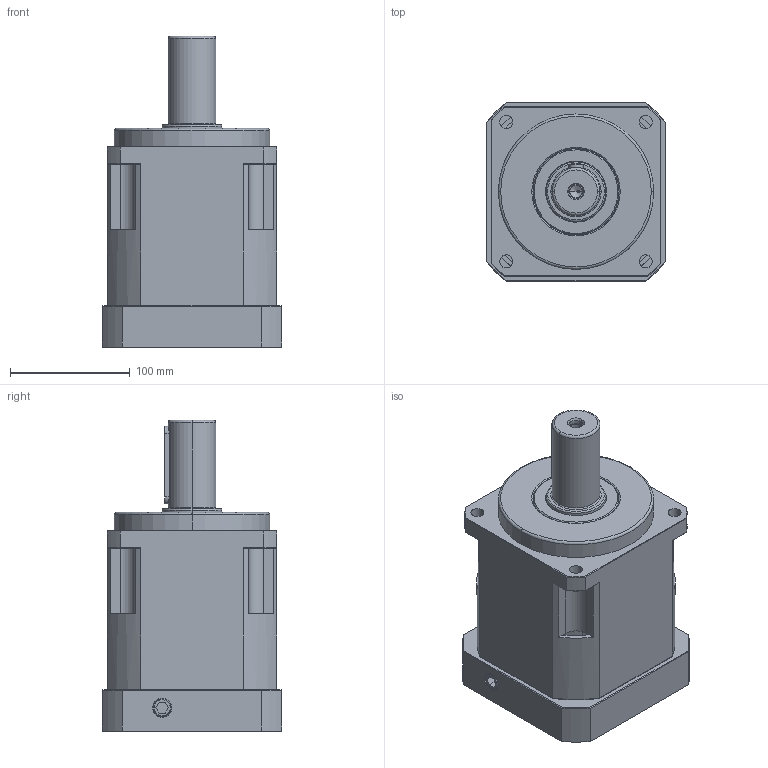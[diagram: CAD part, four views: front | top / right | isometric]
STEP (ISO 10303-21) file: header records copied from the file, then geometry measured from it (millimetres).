
FILE_DESCRIPTION (( 'STEP AP203' ), '1' );
FILE_NAME ('SB142-1-130M10-K.step', '2021-06-29T00:15:05', ( '' ), ( '' ), 'SwSTEP 2.0', 'SolidWorks 2020', '' );
FILE_SCHEMA (( 'CONFIG_CONTROL_DESIGN' ));
Length unit declared in the file: millimetre
Products named in the file (1): SB142-1-130M10-K
Bounding box: 150 x 150 x 260.5 mm (x, y, z)
Volume: 2630656.5 mm3; surface area: 296518.7 mm2
Topology: 2 solids, 15 shells, 915 faces, 2192 edges, 1319 vertices
Faces by surface type: plane 301, cylinder 287, cone 190, torus 113, sphere 16, bspline 8
Entity records: 27192 total; most frequent: CARTESIAN_POINT 5459, DIRECTION 4973, ORIENTED_EDGE 4292, EDGE_CURVE 2146, AXIS2_PLACEMENT_3D 2033, VERTEX_POINT 1311, CIRCLE 1125, EDGE_LOOP 1001
